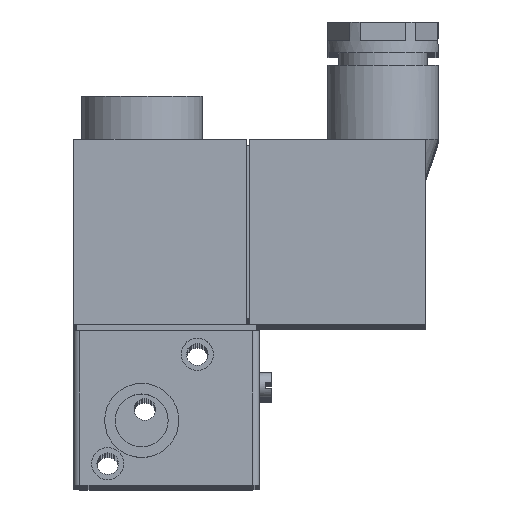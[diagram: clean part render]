
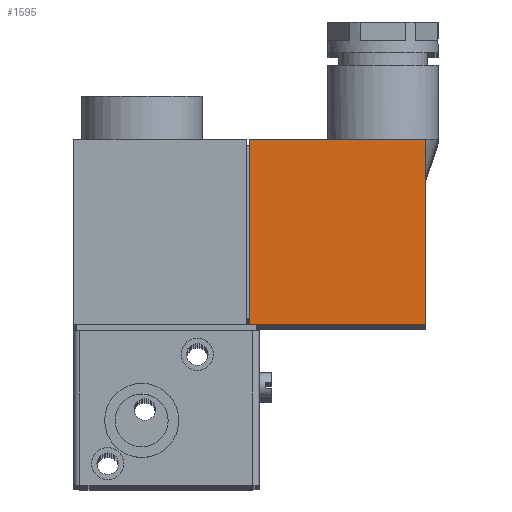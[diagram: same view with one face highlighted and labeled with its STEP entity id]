
A CAD part, top view. The second image highlights one B-rep face of the part: STEP entity #1595.
In plain terms, the highlighted planar face has unit normal (0, 0, 1).
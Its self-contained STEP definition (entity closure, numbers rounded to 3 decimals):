
#299=FACE_OUTER_BOUND('',#412,.T.);
#412=EDGE_LOOP('',(#1354,#1355,#1356,#1357));
#498=LINE('',#2668,#619);
#528=LINE('',#2732,#649);
#530=LINE('',#2738,#651);
#531=LINE('',#2740,#652);
#619=VECTOR('',#2162,1000.);
#649=VECTOR('',#2216,1000.);
#651=VECTOR('',#2224,1000.);
#652=VECTOR('',#2227,1000.);
#828=VERTEX_POINT('',#2665);
#829=VERTEX_POINT('',#2667);
#849=VERTEX_POINT('',#2726);
#851=VERTEX_POINT('',#2730);
#992=EDGE_CURVE('',#828,#829,#498,.T.);
#1023=EDGE_CURVE('',#849,#851,#528,.T.);
#1027=EDGE_CURVE('',#828,#849,#530,.T.);
#1028=EDGE_CURVE('',#829,#851,#531,.T.);
#1354=ORIENTED_EDGE('',*,*,#1023,.T.);
#1355=ORIENTED_EDGE('',*,*,#1028,.F.);
#1356=ORIENTED_EDGE('',*,*,#992,.F.);
#1357=ORIENTED_EDGE('',*,*,#1027,.T.);
#1511=PLANE('',#1810);
#1595=ADVANCED_FACE('',(#299),#1511,.F.);
#1810=AXIS2_PLACEMENT_3D('',#2739,#2225,#2226);
#2162=DIRECTION('',(0.,-1.,0.));
#2216=DIRECTION('',(0.,-1.,0.));
#2224=DIRECTION('',(-1.,0.,0.));
#2225=DIRECTION('center_axis',(0.,0.,-1.));
#2226=DIRECTION('ref_axis',(-1.,0.,0.));
#2227=DIRECTION('',(-1.,0.,0.));
#2665=CARTESIAN_POINT('',(57.,30.,22.));
#2667=CARTESIAN_POINT('',(57.,0.,22.));
#2668=CARTESIAN_POINT('',(57.,30.,22.));
#2726=CARTESIAN_POINT('',(28.5,30.,22.));
#2730=CARTESIAN_POINT('',(28.5,0.,22.));
#2732=CARTESIAN_POINT('',(28.5,30.,22.));
#2738=CARTESIAN_POINT('',(57.,30.,22.));
#2739=CARTESIAN_POINT('Origin',(57.,30.,22.));
#2740=CARTESIAN_POINT('',(57.,0.,22.));
